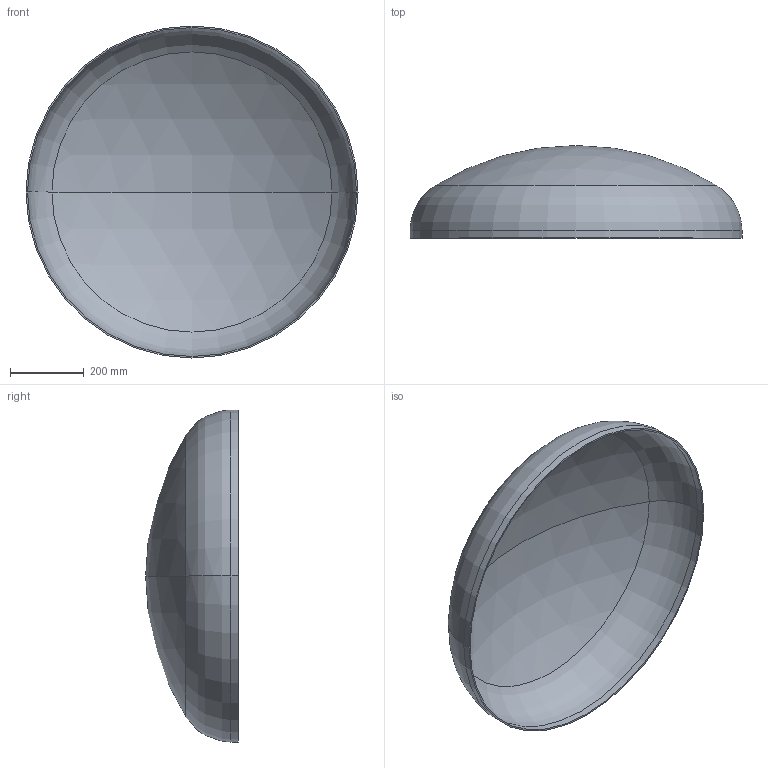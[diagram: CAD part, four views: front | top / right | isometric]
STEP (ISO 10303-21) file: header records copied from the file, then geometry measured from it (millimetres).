
FILE_DESCRIPTION (( 'STEP AP203' ), '1' );
FILE_NAME ('DIN 28013 Korbbogenform_-_Boden DIN 28013 - 900 x 20 - I - s=4.step', '2016-07-01T08:24:27', ( '' ), ( '' ), 'SwSTEP 2.0', 'SolidWorks 2013', '' );
FILE_SCHEMA (( 'CONFIG_CONTROL_DESIGN' ));
Length unit declared in the file: millimetre
Products named in the file (1): DIN 28013 Korbbogenform_-_Boden DIN 28013 - 900 x 20 - I - s=4
Bounding box: 900 x 251.29 x 900 mm (x, y, z)
Volume: 3735946.1 mm3; surface area: 1879265.3 mm2
Topology: 1 solids, 1 shells, 13 faces, 24 edges, 14 vertices
Faces by surface type: torus 4, cylinder 4, sphere 4, plane 1
Entity records: 407 total; most frequent: DIRECTION 72, CARTESIAN_POINT 52, ORIENTED_EDGE 48, AXIS2_PLACEMENT_3D 34, EDGE_CURVE 24, CIRCLE 20, EDGE_LOOP 14, VERTEX_POINT 14
